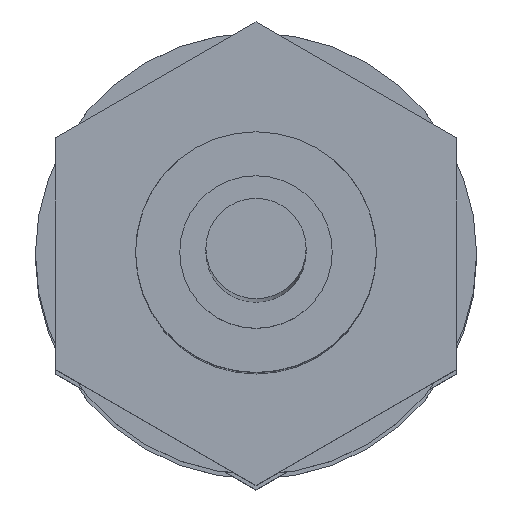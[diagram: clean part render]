
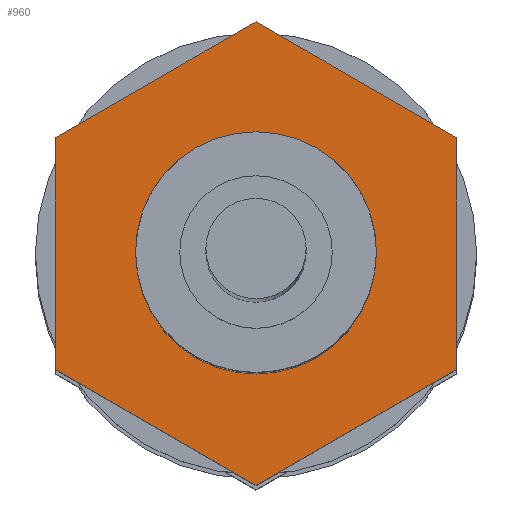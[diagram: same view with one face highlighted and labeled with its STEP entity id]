
A CAD part, top view. The second image highlights one B-rep face of the part: STEP entity #960.
In plain terms, the highlighted planar face has unit normal (0, 0, 1) as drawn and (0, 0, -1) by its records, which use the part's own axes.
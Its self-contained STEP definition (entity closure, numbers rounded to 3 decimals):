
#4 = VERTEX_POINT ( 'NONE', #1405 ) ;
#13 = EDGE_CURVE ( 'NONE', #4, #1237, #1388, .T. ) ;
#17 = EDGE_CURVE ( 'NONE', #891, #4, #1435, .T. ) ;
#44 = EDGE_CURVE ( 'NONE', #51, #1285, #1456, .T. ) ;
#51 = VERTEX_POINT ( 'NONE', #1500 ) ;
#859 = ORIENTED_EDGE ( 'NONE', *, *, #17, .F. ) ;
#891 = VERTEX_POINT ( 'NONE', #1619 ) ;
#926 = ORIENTED_EDGE ( 'NONE', *, *, #44, .T. ) ;
#932 = EDGE_LOOP ( 'NONE', ( #926, #940 ) ) ;
#934 = ORIENTED_EDGE ( 'NONE', *, *, #978, .F. ) ;
#940 = ORIENTED_EDGE ( 'NONE', *, *, #990, .T. ) ;
#960 = ADVANCED_FACE ( 'NONE', ( #1667, #1714 ), #1707, .F. ) ;
#974 = ORIENTED_EDGE ( 'NONE', *, *, #976, .F. ) ;
#976 = EDGE_CURVE ( 'NONE', #977, #1292, #1789, .T. ) ;
#977 = VERTEX_POINT ( 'NONE', #1742 ) ;
#978 = EDGE_CURVE ( 'NONE', #1237, #981, #1786, .T. ) ;
#981 = VERTEX_POINT ( 'NONE', #1773 ) ;
#985 = EDGE_CURVE ( 'NONE', #981, #977, #1770, .T. ) ;
#989 = ORIENTED_EDGE ( 'NONE', *, *, #985, .F. ) ;
#990 = EDGE_CURVE ( 'NONE', #1285, #51, #1758, .T. ) ;
#1056 = EDGE_CURVE ( 'NONE', #1292, #891, #1910, .T. ) ;
#1127 = ORIENTED_EDGE ( 'NONE', *, *, #1056, .F. ) ;
#1159 = EDGE_LOOP ( 'NONE', ( #1339, #859, #1127, #974, #989, #934 ) ) ;
#1237 = VERTEX_POINT ( 'NONE', #2184 ) ;
#1285 = VERTEX_POINT ( 'NONE', #2243 ) ;
#1292 = VERTEX_POINT ( 'NONE', #2242 ) ;
#1339 = ORIENTED_EDGE ( 'NONE', *, *, #13, .F. ) ;
#1387 = CARTESIAN_POINT ( 'NONE',  ( 5., 2.887, 0. ) ) ;
#1388 = LINE ( 'NONE', #1387, #1444 ) ;
#1405 = CARTESIAN_POINT ( 'NONE',  ( 5., 2.887, 0. ) ) ;
#1432 = DIRECTION ( 'NONE',  ( 0., 1., 0. ) ) ;
#1433 = VECTOR ( 'NONE', #1432, 1000. ) ;
#1434 = CARTESIAN_POINT ( 'NONE',  ( 5., -2.887, 0. ) ) ;
#1435 = LINE ( 'NONE', #1434, #1433 ) ;
#1443 = DIRECTION ( 'NONE',  ( -0.866, 0.5, 0. ) ) ;
#1444 = VECTOR ( 'NONE', #1443, 1000. ) ;
#1446 = DIRECTION ( 'NONE',  ( 1., 0., 0. ) ) ;
#1447 = DIRECTION ( 'NONE',  ( 0., 0., 1. ) ) ;
#1450 = CARTESIAN_POINT ( 'NONE',  ( 0., 0., 0. ) ) ;
#1454 = AXIS2_PLACEMENT_3D ( 'NONE', #1450, #1447, #1446 ) ;
#1456 = CIRCLE ( 'NONE', #1454, 3. ) ;
#1500 = CARTESIAN_POINT ( 'NONE',  ( -3., 0., 0. ) ) ;
#1619 = CARTESIAN_POINT ( 'NONE',  ( 5., -2.887, 0. ) ) ;
#1667 = FACE_OUTER_BOUND ( 'NONE', #1159, .T. ) ;
#1701 = DIRECTION ( 'NONE',  ( 1., 0., 0. ) ) ;
#1702 = DIRECTION ( 'NONE',  ( 0., 0., 1. ) ) ;
#1703 = CARTESIAN_POINT ( 'NONE',  ( -5., 8.66, 0. ) ) ;
#1704 = AXIS2_PLACEMENT_3D ( 'NONE', #1703, #1702, #1701 ) ;
#1707 = PLANE ( 'NONE',  #1704 ) ;
#1714 = FACE_BOUND ( 'NONE', #932, .T. ) ;
#1731 = VECTOR ( 'NONE', #1787, 1000. ) ;
#1742 = CARTESIAN_POINT ( 'NONE',  ( -5., -2.887, 0. ) ) ;
#1758 = CIRCLE ( 'NONE', #1824, 3. ) ;
#1759 = DIRECTION ( 'NONE',  ( 0., -1., 0. ) ) ;
#1760 = VECTOR ( 'NONE', #1759, 1000. ) ;
#1761 = CARTESIAN_POINT ( 'NONE',  ( -5., 2.887, 0. ) ) ;
#1762 = CARTESIAN_POINT ( 'NONE',  ( 0., 0., 0. ) ) ;
#1770 = LINE ( 'NONE', #1761, #1760 ) ;
#1773 = CARTESIAN_POINT ( 'NONE',  ( -5., 2.887, 0. ) ) ;
#1781 = DIRECTION ( 'NONE',  ( -0.866, -0.5, 0. ) ) ;
#1782 = VECTOR ( 'NONE', #1781, 1000. ) ;
#1785 = CARTESIAN_POINT ( 'NONE',  ( 0., 5.774, 0. ) ) ;
#1786 = LINE ( 'NONE', #1785, #1782 ) ;
#1787 = DIRECTION ( 'NONE',  ( 0.866, -0.5, 0. ) ) ;
#1788 = CARTESIAN_POINT ( 'NONE',  ( -5., -2.887, 0. ) ) ;
#1789 = LINE ( 'NONE', #1788, #1731 ) ;
#1822 = DIRECTION ( 'NONE',  ( 1., 0., 0. ) ) ;
#1823 = DIRECTION ( 'NONE',  ( 0., 0., 1. ) ) ;
#1824 = AXIS2_PLACEMENT_3D ( 'NONE', #1762, #1823, #1822 ) ;
#1890 = DIRECTION ( 'NONE',  ( 0.866, 0.5, 0. ) ) ;
#1891 = VECTOR ( 'NONE', #1890, 1000. ) ;
#1892 = CARTESIAN_POINT ( 'NONE',  ( 0., -5.774, 0. ) ) ;
#1910 = LINE ( 'NONE', #1892, #1891 ) ;
#2184 = CARTESIAN_POINT ( 'NONE',  ( 0., 5.774, 0. ) ) ;
#2242 = CARTESIAN_POINT ( 'NONE',  ( 0., -5.774, 0. ) ) ;
#2243 = CARTESIAN_POINT ( 'NONE',  ( 3., 0., 0. ) ) ;
